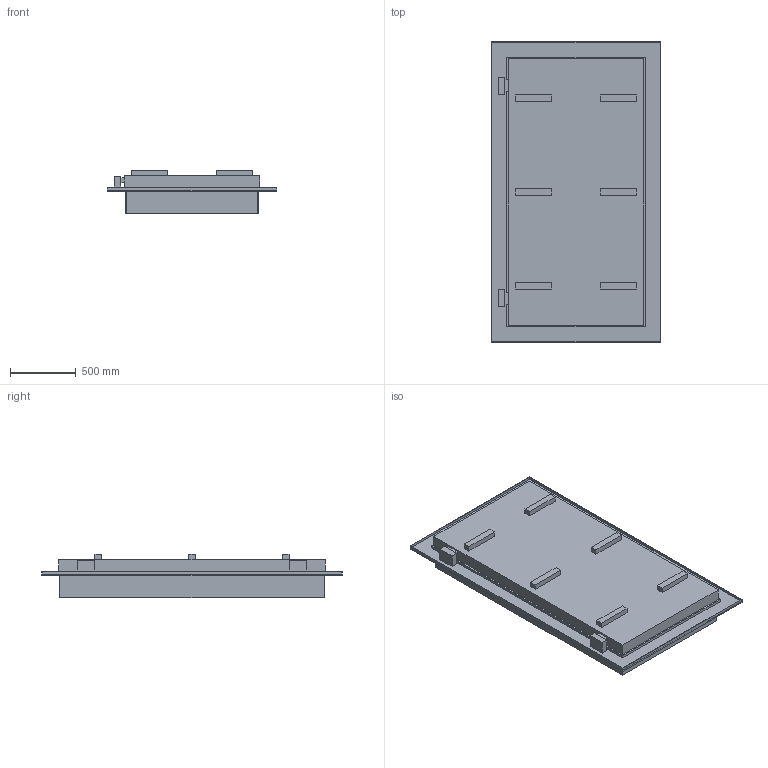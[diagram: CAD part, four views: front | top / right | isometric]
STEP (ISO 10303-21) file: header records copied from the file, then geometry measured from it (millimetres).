
FILE_DESCRIPTION((''),'2;1');
FILE_NAME('51475653','2020-03-26T08:53:41',('ka'),('HUBER SE'),'CREO PARAMETRIC BY PTC INC, 2019224','CREO PARAMETRIC BY PTC INC, 2019224','');
FILE_SCHEMA(('AUTOMOTIVE_DESIGN { 1 0 10303 214 1 1 1 1 }'));
Length unit declared in the file: millimetre
Products named in the file (1): 51475653
Bounding box: 1290 x 2290 x 330 mm (x, y, z)
Volume: 218151696 mm3; surface area: 9635072 mm2
Topology: 1 solids, 1 shells, 109 faces, 369 edges, 281 vertices
Faces by surface type: plane 109
Entity records: 5550 total; most frequent: CARTESIAN_POINT 830, DIRECTION 600, ORIENTED_EDGE 528, VECTOR 323, LINE 323, EDGE_CURVE 264, PRESENTATION_STYLE_ASSIGNMENT 191, STYLED_ITEM 191
